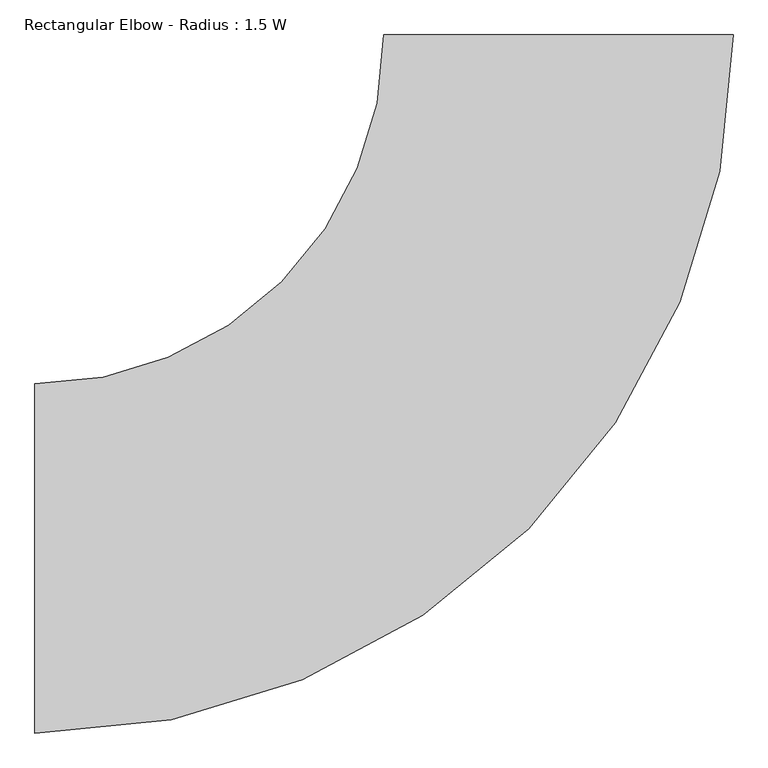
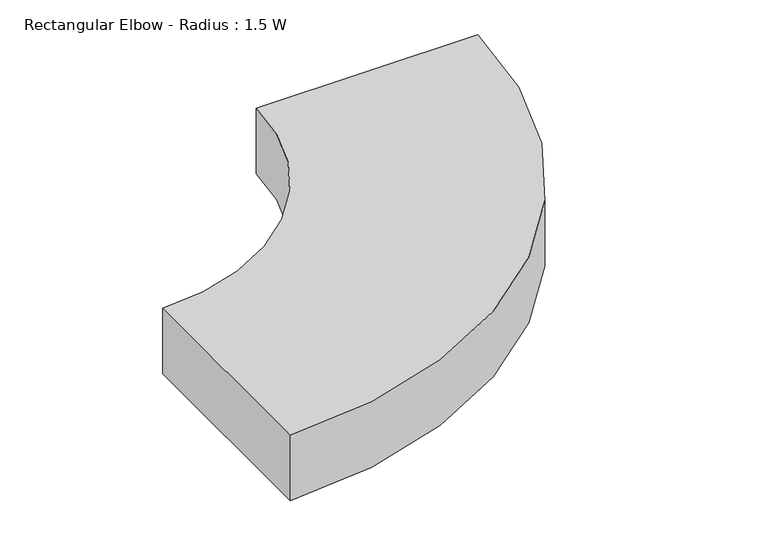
"""IFC4 building model written with IfcOpenShell, lengths in millimetres: duct fitting geometry, Rectangular Elbow - Radius : 1.5 W."""

from ifc_helpers import new_model, si_unit, point, frame, frame_2d, origin, place, context, project, spatial, polyline, circle_curve, trimmed, segment, composite_curve, outline, extrude, source, transform, mapped, element, save


def rectangular_elbow_radius_1_5_w_4ddcde65(model_context):
    return source(origin(), model_context, "Body", "SweptSolid", [
        extrude(outline(composite_curve([segment(trimmed(circle_curve(frame_2d((-1200.0, 1200.0)), 1600.0), [point((400.0, 1200.0))], [point((-1200.0, -400.0))], False, "CARTESIAN"), True, "CONTINUOUS"), segment(polyline([(-1200.0, -400.0), (-1200.0, 400.0)]), True, "CONTINUOUS"), segment(trimmed(circle_curve(frame_2d((-1200.0, 1200.0)), 800.0), [point((-1200.0, 400.0))], [point((-400.0, 1200.0))], True, "CARTESIAN"), True, "CONTINUOUS"), segment(polyline([(-400.0, 1200.0), (400.0, 1200.0)]), True, "CONTINUOUS")], self_intersect=False)), frame((0.0, 0.0, -125.0), z_axis=(0.0, 0.0, 1.0), x_axis=(1.0, 0.0, 0.0)), (0.0, 0.0, 1.0), 250.0),
    ])


if __name__ == "__main__":
    model = new_model("IFC4")
    model_context = context("Model", 3, world=origin())
    ifc_project = project(units=[si_unit("LENGTHUNIT", "METRE", prefix="MILLI")], contexts=[model_context])
    site = spatial("IfcSite", under=ifc_project)
    building = spatial("IfcBuilding", under=site)
    placement = place(None, origin())
    rectangular_elbow_radius_1_5_w_shape = rectangular_elbow_radius_1_5_w_4ddcde65(model_context)
    element("IfcDuctFitting", 1, ObjectType="Rectangular Elbow - Radius : 1.5 W", at=placement, inside=building, context=model_context, shape_type="MappedRepresentation", body=[
        mapped(rectangular_elbow_radius_1_5_w_shape, transform((0.0, 0.0, 0.0), x_axis=(1.0, 0.0, 0.0), y_axis=(0.0, 1.0, 0.0), z_axis=(0.0, 0.0, 1.0))),
    ])
    save(model, "model.ifc")
